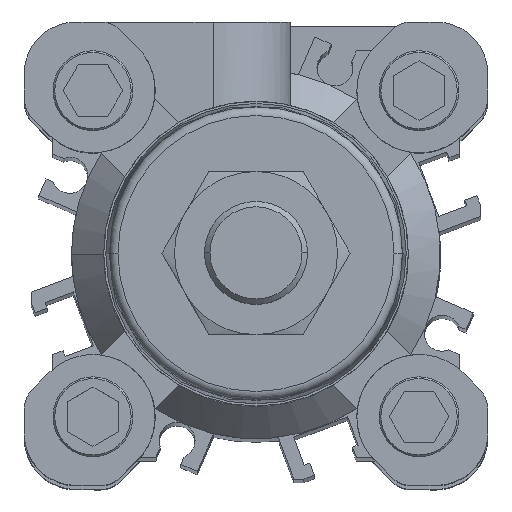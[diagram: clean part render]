
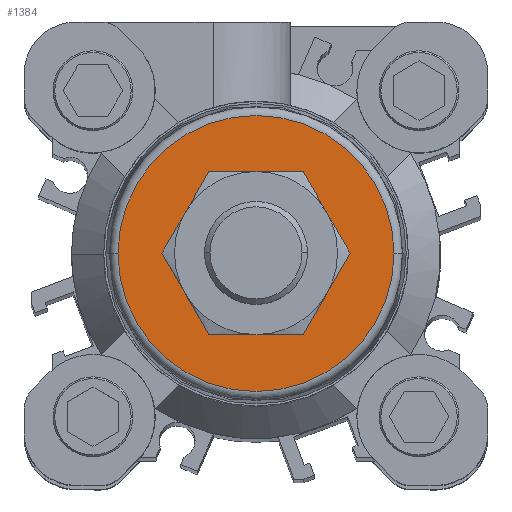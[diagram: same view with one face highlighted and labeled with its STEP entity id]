
A CAD part, top view. The second image highlights one B-rep face of the part: STEP entity #1384.
In plain terms, the highlighted planar face has unit normal (0, 0, 1).
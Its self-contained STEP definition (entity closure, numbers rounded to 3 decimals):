
#573 = AXIS2_PLACEMENT_3D ( 'NONE', #9160, #5146, #8121 ) ;
#1013 = CIRCLE ( 'NONE', #573, 8. ) ;
#1384 = ADVANCED_FACE ( 'NONE', ( #4537, #8680 ), #7416, .T. ) ;
#1846 = EDGE_CURVE ( 'NONE', #5819, #3903, #4419, .T. ) ;
#2303 = CARTESIAN_POINT ( 'NONE',  ( 0., 0., 48.6 ) ) ;
#2614 = CIRCLE ( 'NONE', #4162, 16.08 ) ;
#3318 = AXIS2_PLACEMENT_3D ( 'NONE', #2303, #3539, #11671 ) ;
#3539 = DIRECTION ( 'NONE',  ( 0., 0., 1. ) ) ;
#3607 = EDGE_LOOP ( 'NONE', ( #7574, #13423 ) ) ;
#3870 = DIRECTION ( 'NONE',  ( 1., 0., 0. ) ) ;
#3903 = VERTEX_POINT ( 'NONE', #12366 ) ;
#4054 = EDGE_CURVE ( 'NONE', #4619, #12850, #13402, .T. ) ;
#4162 = AXIS2_PLACEMENT_3D ( 'NONE', #10732, #7794, #9775 ) ;
#4419 = CIRCLE ( 'NONE', #10088, 16.08 ) ;
#4537 = FACE_OUTER_BOUND ( 'NONE', #10338, .T. ) ;
#4619 = VERTEX_POINT ( 'NONE', #5033 ) ;
#4769 = DIRECTION ( 'NONE',  ( 0., 0., 1. ) ) ;
#5033 = CARTESIAN_POINT ( 'NONE',  ( 8., 0., 48.6 ) ) ;
#5146 = DIRECTION ( 'NONE',  ( 0., 0., 1. ) ) ;
#5819 = VERTEX_POINT ( 'NONE', #9626 ) ;
#6271 = CARTESIAN_POINT ( 'NONE',  ( -8., 0., 48.6 ) ) ;
#7416 = PLANE ( 'NONE',  #3318 ) ;
#7574 = ORIENTED_EDGE ( 'NONE', *, *, #4054, .F. ) ;
#7786 = ORIENTED_EDGE ( 'NONE', *, *, #1846, .T. ) ;
#7794 = DIRECTION ( 'NONE',  ( 0., 0., 1. ) ) ;
#8121 = DIRECTION ( 'NONE',  ( 1., 0., 0. ) ) ;
#8680 = FACE_BOUND ( 'NONE', #3607, .T. ) ;
#8800 = CARTESIAN_POINT ( 'NONE',  ( 0., 0., 48.6 ) ) ;
#8812 = AXIS2_PLACEMENT_3D ( 'NONE', #8800, #13243, #12154 ) ;
#9160 = CARTESIAN_POINT ( 'NONE',  ( 0., 0., 48.6 ) ) ;
#9626 = CARTESIAN_POINT ( 'NONE',  ( 16.08, 0., 48.6 ) ) ;
#9633 = EDGE_CURVE ( 'NONE', #3903, #5819, #2614, .T. ) ;
#9775 = DIRECTION ( 'NONE',  ( 1., 0., 0. ) ) ;
#10088 = AXIS2_PLACEMENT_3D ( 'NONE', #11941, #4769, #3870 ) ;
#10338 = EDGE_LOOP ( 'NONE', ( #7786, #11535 ) ) ;
#10732 = CARTESIAN_POINT ( 'NONE',  ( 0., 0., 48.6 ) ) ;
#11535 = ORIENTED_EDGE ( 'NONE', *, *, #9633, .T. ) ;
#11671 = DIRECTION ( 'NONE',  ( 1., 0., 0. ) ) ;
#11941 = CARTESIAN_POINT ( 'NONE',  ( 0., 0., 48.6 ) ) ;
#12154 = DIRECTION ( 'NONE',  ( 1., 0., 0. ) ) ;
#12366 = CARTESIAN_POINT ( 'NONE',  ( -16.08, 0., 48.6 ) ) ;
#12850 = VERTEX_POINT ( 'NONE', #6271 ) ;
#13243 = DIRECTION ( 'NONE',  ( 0., 0., 1. ) ) ;
#13394 = EDGE_CURVE ( 'NONE', #12850, #4619, #1013, .T. ) ;
#13402 = CIRCLE ( 'NONE', #8812, 8. ) ;
#13423 = ORIENTED_EDGE ( 'NONE', *, *, #13394, .F. ) ;
